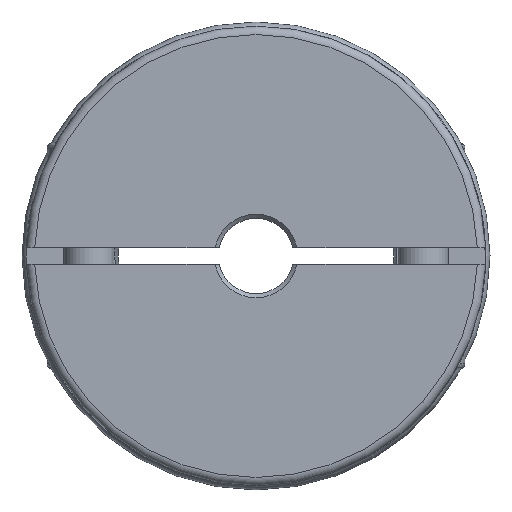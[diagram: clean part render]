
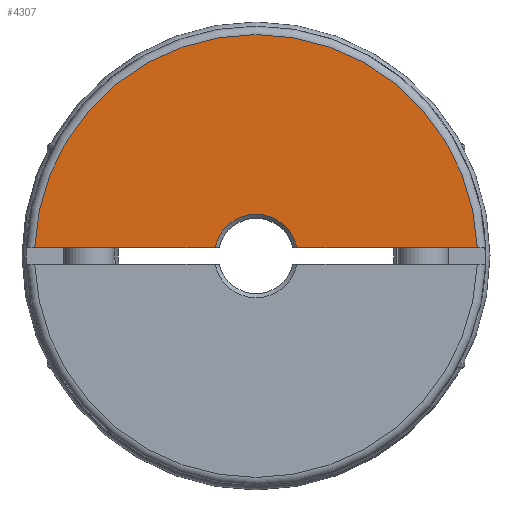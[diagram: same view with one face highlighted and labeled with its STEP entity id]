
A CAD part, left-side view. The second image highlights one B-rep face of the part: STEP entity #4307.
In plain terms, the highlighted planar face has unit normal (-1, 0, 0).
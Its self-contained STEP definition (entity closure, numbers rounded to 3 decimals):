
#98=LINE('',#6795,#242);
#107=LINE('',#6829,#251);
#242=VECTOR('',#5370,1000.);
#251=VECTOR('',#5389,1000.);
#1041=ORIENTED_EDGE('',*,*,#1508,.T.);
#1042=ORIENTED_EDGE('',*,*,#1448,.T.);
#1043=ORIENTED_EDGE('',*,*,#1494,.F.);
#1044=ORIENTED_EDGE('',*,*,#1524,.F.);
#1448=EDGE_CURVE('',#1779,#1777,#2003,.T.);
#1494=EDGE_CURVE('',#1822,#1777,#98,.T.);
#1508=EDGE_CURVE('',#1828,#1779,#107,.T.);
#1524=EDGE_CURVE('',#1828,#1822,#2034,.T.);
#1777=VERTEX_POINT('',#6494);
#1779=VERTEX_POINT('',#6497);
#1822=VERTEX_POINT('',#6796);
#1828=VERTEX_POINT('',#6830);
#2003=CIRCLE('',#4597,5.);
#2034=CIRCLE('',#4650,26.5);
#2302=EDGE_LOOP('',(#1041,#1042,#1043,#1044));
#2600=FACE_BOUND('',#2302,.T.);
#2730=PLANE('',#4668);
#4307=ADVANCED_FACE('',(#2600),#2730,.F.);
#4597=AXIS2_PLACEMENT_3D('',#6496,#5290,#5291);
#4650=AXIS2_PLACEMENT_3D('',#6872,#5420,#5421);
#4668=AXIS2_PLACEMENT_3D('',#6890,#5456,#5457);
#5290=DIRECTION('',(1.,0.,0.));
#5291=DIRECTION('',(0.,-1.,0.));
#5370=DIRECTION('',(0.,1.,0.));
#5389=DIRECTION('',(0.,-1.,0.));
#5420=DIRECTION('',(1.,0.,0.));
#5421=DIRECTION('',(0.,-1.,0.));
#5456=DIRECTION('',(1.,0.,0.));
#5457=DIRECTION('',(0.,-1.,0.));
#6494=CARTESIAN_POINT('',(-32.978,-4.899,1.));
#6496=CARTESIAN_POINT('',(-32.978,0.,0.));
#6497=CARTESIAN_POINT('',(-32.978,4.899,1.));
#6795=CARTESIAN_POINT('',(-32.978,27.5,1.));
#6796=CARTESIAN_POINT('',(-32.978,-26.481,1.));
#6829=CARTESIAN_POINT('',(-32.978,27.5,1.));
#6830=CARTESIAN_POINT('',(-32.978,26.481,1.));
#6872=CARTESIAN_POINT('',(-32.978,0.,0.));
#6890=CARTESIAN_POINT('',(-32.978,27.5,0.));
